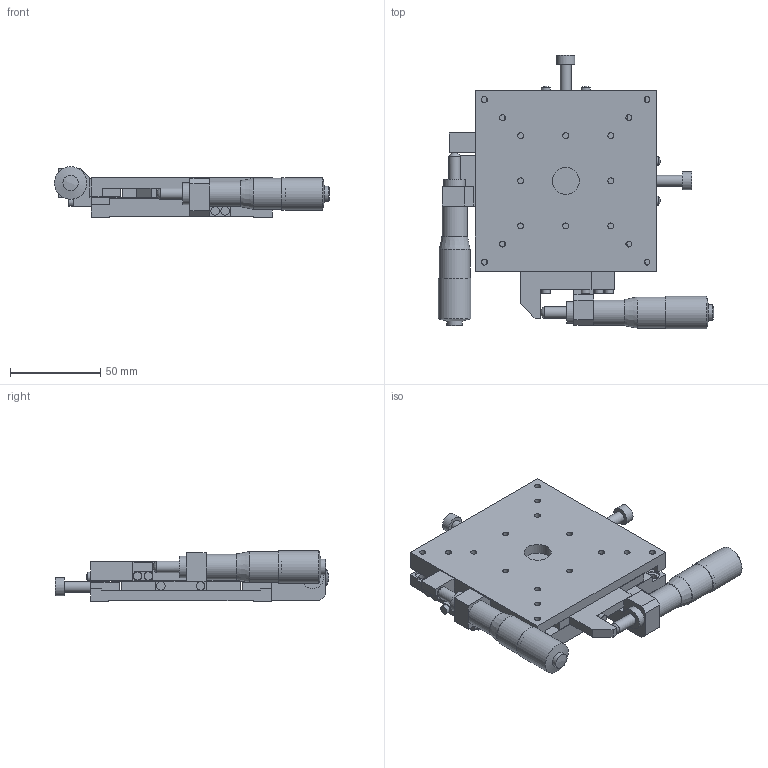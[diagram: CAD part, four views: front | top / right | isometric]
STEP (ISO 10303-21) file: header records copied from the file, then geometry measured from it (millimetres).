
FILE_DESCRIPTION( ( 'STEP AP214' ), '1' );
FILE_NAME( 'C:/Project/3D_B23-100C-配布-070508.stp', '2007-05-08T10:43:08', ( ' ' ), ( ' ' ), 'XStep 1.0', ' ', ' ' );
FILE_SCHEMA( ( 'automotive_design' ) );
Length unit declared in the file: millimetre
Products named in the file (5): 1; 2; 3; 4; 5
Bounding box: 152.37 x 151.65 x 28 mm (x, y, z)
Volume: 243404.4 mm3; surface area: 94718.4 mm2
Topology: 5 solids, 5 shells, 251 faces, 684 edges, 450 vertices
Faces by surface type: plane 166, cylinder 71, sphere 8, cone 6
Full cylindrical faces by diameter (mm): 3 x2, 3.3 x16, 4.5 x4, 4.7 x8, 5 x4, 6 x2, 6.35 x2, 6.5 x2, 8 x4, 8.6 x2, 10 x2, 12 x2, 14 x2, 15 x1, 16.8 x2, 17.2 x2, 18 x2
Entity records: 9289 total; most frequent: DIRECTION 1235, CARTESIAN_POINT 1223, ORIENTED_EDGE 1128, EDGE_CURVE 564, AXIS2_PLACEMENT_3D 415, LINE 405, VECTOR 405, VERTEX_POINT 403
